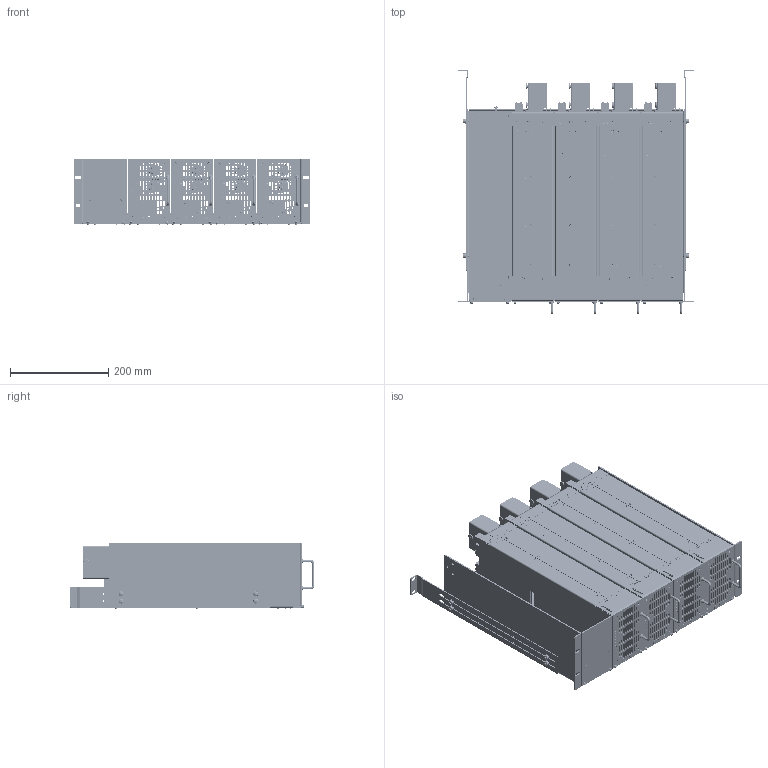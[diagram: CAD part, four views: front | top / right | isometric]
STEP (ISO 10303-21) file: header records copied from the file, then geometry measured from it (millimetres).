
FILE_DESCRIPTION(/* description */ ('19" Subrack 3U 84TE ','CAx-IF Rec.Pracs.---Representation and Presentation of Product Manufacturing Information (PMI)---4.0---2014-10-13'),/* implementation_level */ '2;1');
FILE_NAME(/* name */ 'E:\CAMTEC_2020_Pack and Go\Subrack_3U\Subrack_3U.stp',/* time_stamp */ '2020-09-21T18:47:35+02:00',/* author */ ('rryba'),/* organization */ (''),/* preprocessor_version */ 'ST-DEVELOPER v18.1',/* originating_system */ 'Autodesk Inventor 2021',/* authorisation */ '');
FILE_SCHEMA (('AP242_MANAGED_MODEL_BASED_3D_ENGINEERING_MIM_LF { 1 0 10303 442 1 1 4 }'));
Products named in the file (100): Subrack_3U; 2201005001CA; 2021076004; 2051050002CA; 2051062002CA; 2051049002CA; 2530396; 2530073; 2530393; 2201008001CA; 2051047001; 2530397; 2201007001CA; 2021057002CA; 2081100001CA; 2081100001; CAMTEC Logo 3D; Aufkleber_CAMTEC Logobild; Aufkleber_CAMTEC Wortbild1; Aufkleber_CAMTEC Wortbild2; 2051036002; 2530318_1; 2530318; PSU; 2031049004; 2021053003; 2021054005; 2021055003; 2051037002; 2051038001; 2011059005; 2011060004; 2051033003; 2051035002; 2061083001; 2061084001; 3011127001KZ; 2530386; 2530165; Abstandrohr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
Assembly tree (240 placements, depth 5):
  Subrack_3U
    2201005001CA
      2021076004
      2051050002CA
      2051062002CA  x2
      2051049002CA  x4
      2530396  x28
      2530073
      2530393
    2201008001CA
      2051047001  x2
      2530397  x8
    2201007001CA  x4
      2021057002CA
      2081100001CA
        2081100001
        CAMTEC Logo 3D
          Aufkleber_CAMTEC Logobild
          Aufkleber_CAMTEC Wortbild1
          Aufkleber_CAMTEC Wortbild2
      2051036002
      2530318_1
      2530318
      2530279_1
      2530278
      2530245
      2530320
    PSU  x4
      2031049004
      2021053003
      2021054005
      2021055003
      2051037002
      2051038001
      2011059005
      2011060004
      2051033003
      2051035002
      2061083001
      2061084001
      3011127001KZ
      2530386
      2530165
        Abstandrohr
        Abstandrohr- Gewindebolzen
        Abstandrohr- Mutter
      Analog I_O
        2051054004
        2051055001  x2
        2530278  x4
        Analog PCB
        1277290000
        1277320000
        1277330000
        1277340000
        ISO 7045 - M2,5 x 6 - 4.8 - H  x2
        DIN 433 - 2,7  x2
      Digital I_O
        2051078001
        2051055001  x2
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Bounding box: 483 x 499.6 x 133.95 mm (x, y, z)
Volume: 3943868.2 mm3; surface area: 4157058.2 mm2
Topology: 1313 solids, 1314 shells, 53215 faces, 163230 edges, 133546 vertices
Faces by surface type: plane 35961, cylinder 10207, cone 4155, torus 1529, bspline 1280, sphere 83
Full cylindrical faces by diameter (mm): 0.242 x8, 0.281 x8, 0.314 x1, 0.6 x36, 0.9 x72, 1 x36, 1.4 x232, 1.59 x16, 1.6 x108, 1.7 x36, 1.92 x36, 1.96 x108, 2.013 x80, 2.156 x8, 2.161 x16, 2.256 x16, 2.3 x52, 2.459 x300, 2.5 x48, 2.55 x16, 2.693 x200, 2.7 x16, 2.729 x8, 2.75 x10, 2.8 x36, 2.95 x16, 3 x276, 3.2 x40, 3.242 x138, 3.3 x8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
Entity records: 337729 total; most frequent: CARTESIAN_POINT 69665, ORIENTED_EDGE 52512, DIRECTION 52419, EDGE_CURVE 26256, LINE 20179, VECTOR 20179, VERTEX_POINT 17199, AXIS2_PLACEMENT_3D 16120
